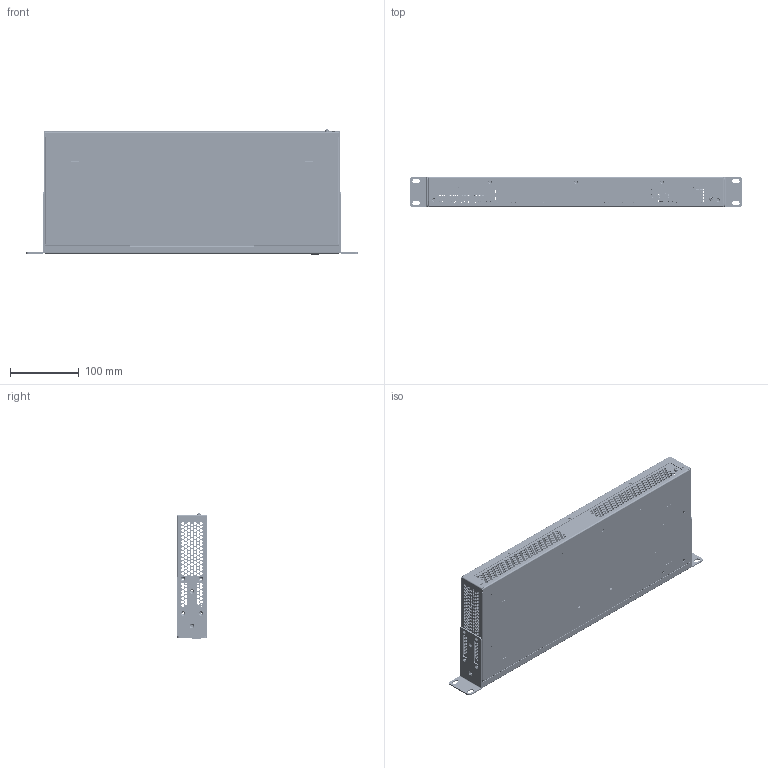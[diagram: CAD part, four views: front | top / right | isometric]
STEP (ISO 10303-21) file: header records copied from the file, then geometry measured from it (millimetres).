
FILE_DESCRIPTION (( 'STEP AP214' ), '1' );
FILE_NAME ('MES2124M DC.STEP', '2025-03-20T10:06:58', ( '' ), ( '' ), 'SwSTEP 2.0', 'SolidWorks 2023', '' );
FILE_SCHEMA (( 'AUTOMOTIVE_DESIGN' ));
Length unit declared in the file: millimetre
Products named in the file (24): _RJ45_2X2_LED_RJ45_2X2_LED_U59(311-09)G8-28-2622-C12; _SFP_CAGE_1X1_1_SFP_CAGE_1X1_1; _RJ45_1X1_SH_RJ45_1X1_SH_3019AB5611(KINSUN); _SWT42_SWT42_SWT-42-4.3; _DIN6798 А_DIN 6798A-3.2; _MES2124M.19.1.020; _RJ45_2X4_8P8C_WL_RJ45_2X4_8P8C_WL_kingsun 3027s-48831; _SFP_CAGE_1X1_SFP_CAGE_1X1; _MES2124MDC.19.1.000_mes2124; _Plate spm3548x12_1v1; _KPTB1612_KPTB1612; _MES2124M.19.1.010; _MES2124M.19.1.021; _mes1024.19.1.005v2_Flange for W=430mm 19 inch case; _Plate MES2124M (1v7); _Plate spm3548x12_1v1 (ALL)_no ware; _MES2124M.19.1.011; _LP4LP_LP4LP_LP4-EP; _SFP_CAGE_1X1_2_SFP_CAGE_1X1_2; _FRONT2_5H5EX_FRONT2_5H5EX_FRONT 2,5-H-SA 5-EX; _DIN7985 M3_M3x8; _MES2124MDC.19.1.031_MES2124MDC.19.1.031; _FRONT2_5H5EX_FRONT2_5H5EX_D-FRONT 2,5H; MES2124M DC
Assembly tree (33 placements, depth 4):
  MES2124M DC
    _MES2124MDC.19.1.000_mes2124
      _mes1024.19.1.005v2_Flange for W=430mm 19 inch case  x2
      _MES2124M.19.1.010
        _MES2124M.19.1.011
      _MES2124M.19.1.020
        _MES2124M.19.1.021
      _MES2124MDC.19.1.031_MES2124MDC.19.1.031
    _Plate spm3548x12_1v1 (ALL)_no ware
      _Plate spm3548x12_1v1
        _FRONT2_5H5EX_FRONT2_5H5EX_D-FRONT 2,5H
        _FRONT2_5H5EX_FRONT2_5H5EX_FRONT 2,5-H-SA 5-EX
    _Plate MES2124M (1v7)
      _KPTB1612_KPTB1612  x2
      _RJ45_2X2_LED_RJ45_2X2_LED_U59(311-09)G8-28-2622-C12
      _RJ45_1X1_SH_RJ45_1X1_SH_3019AB5611(KINSUN)
      _SWT42_SWT42_SWT-42-4.3
      _SFP_CAGE_1X1_SFP_CAGE_1X1  x4
        _SFP_CAGE_1X1_1_SFP_CAGE_1X1_1
        _SFP_CAGE_1X1_2_SFP_CAGE_1X1_2
      _RJ45_2X4_8P8C_WL_RJ45_2X4_8P8C_WL_kingsun 3027s-48831  x3
    _DIN6798 А_DIN 6798A-3.2
    _DIN7985 M3_M3x8
    _LP4LP_LP4LP_LP4-EP  x4
Bounding box: 482.6 x 43.6 x 182.26 mm (x, y, z)
Volume: 362223.4 mm3; surface area: 521260 mm2
Topology: 41 solids, 41 shells, 13496 faces, 39307 edges, 25978 vertices
Faces by surface type: plane 10684, cylinder 2547, cone 121, torus 62, bspline 48, sphere 34
Entity records: 258102 total; most frequent: CARTESIAN_POINT 46574, ORIENTED_EDGE 44988, DIRECTION 40653, EDGE_CURVE 22494, VECTOR 19767, LINE 19767, VERTEX_POINT 14860, AXIS2_PLACEMENT_3D 10443
